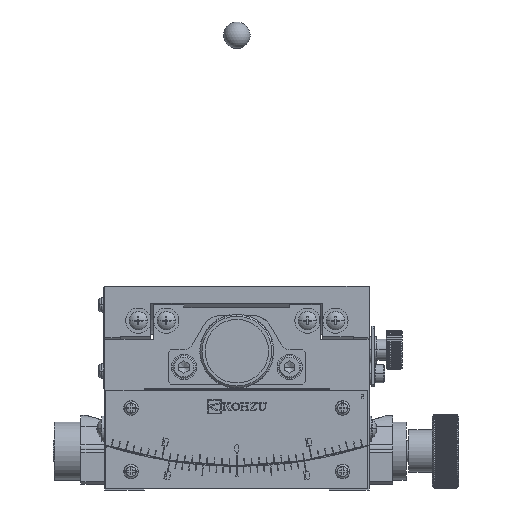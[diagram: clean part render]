
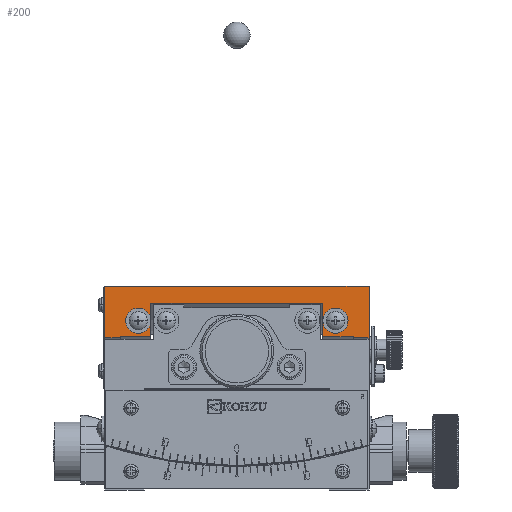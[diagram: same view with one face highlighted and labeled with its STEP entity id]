
A CAD part, front view. The second image highlights one B-rep face of the part: STEP entity #200.
In plain terms, the highlighted planar face has unit normal (0, -1, 0).
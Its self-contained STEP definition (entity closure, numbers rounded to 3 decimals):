
#200=ADVANCED_FACE('',(#4791,#4792,#4793),#4790,.T.);
#4790=PLANE('',#50765);
#4791=FACE_OUTER_BOUND('',#50766,.T.);
#4792=FACE_BOUND('',#50767,.T.);
#4793=FACE_BOUND('',#50768,.T.);
#50762=CARTESIAN_POINT('',(60.,-50.,78.935));
#50763=DIRECTION('',(0.,-1.,0.));
#50764=DIRECTION('',(-1.,0.,0.));
#50765=AXIS2_PLACEMENT_3D('',#50762,#50763,#50764);
#50766=EDGE_LOOP('',(#77972,#77973,#77974,#77975,#77976,#77977,#77978,#77979,#77980,#77981,#77982,#77983));
#50767=EDGE_LOOP('',(#77984,#77985));
#50768=EDGE_LOOP('',(#77986,#77987));
#77972=ORIENTED_EDGE('',*,*,#100789,.F.);
#77973=ORIENTED_EDGE('',*,*,#100792,.F.);
#77974=ORIENTED_EDGE('',*,*,#100793,.F.);
#77975=ORIENTED_EDGE('',*,*,#100794,.T.);
#77976=ORIENTED_EDGE('',*,*,#100795,.T.);
#77977=ORIENTED_EDGE('',*,*,#100796,.F.);
#77978=ORIENTED_EDGE('',*,*,#100797,.T.);
#77979=ORIENTED_EDGE('',*,*,#100798,.T.);
#77980=ORIENTED_EDGE('',*,*,#100799,.F.);
#77981=ORIENTED_EDGE('',*,*,#100800,.F.);
#77982=ORIENTED_EDGE('',*,*,#100801,.T.);
#77983=ORIENTED_EDGE('',*,*,#100802,.T.);
#77984=ORIENTED_EDGE('',*,*,#100803,.F.);
#77985=ORIENTED_EDGE('',*,*,#100804,.F.);
#77986=ORIENTED_EDGE('',*,*,#100805,.F.);
#77987=ORIENTED_EDGE('',*,*,#100806,.F.);
#100789=EDGE_CURVE('',#112210,#112218,#112219,.T.);
#100792=EDGE_CURVE('',#112238,#112210,#112239,.T.);
#100793=EDGE_CURVE('',#112245,#112238,#112246,.T.);
#100794=EDGE_CURVE('',#112245,#112252,#112253,.T.);
#100795=EDGE_CURVE('',#112252,#112259,#112260,.T.);
#100796=EDGE_CURVE('',#112266,#112259,#112267,.T.);
#100797=EDGE_CURVE('',#112266,#112273,#112274,.T.);
#100798=EDGE_CURVE('',#112273,#112280,#112281,.T.);
#100799=EDGE_CURVE('',#112287,#112280,#112288,.T.);
#100800=EDGE_CURVE('',#112294,#112287,#112295,.T.);
#100801=EDGE_CURVE('',#112294,#112301,#112302,.T.);
#100802=EDGE_CURVE('',#112301,#112218,#112308,.T.);
#100803=EDGE_CURVE('',#112314,#112315,#112316,.T.);
#100804=EDGE_CURVE('',#112315,#112314,#112322,.T.);
#100805=EDGE_CURVE('',#112328,#112329,#112330,.T.);
#100806=EDGE_CURVE('',#112329,#112328,#112336,.T.);
#112210=VERTEX_POINT('',#187891);
#112218=VERTEX_POINT('',#187897);
#112219=LINE('',#187898,#187899);
#112238=VERTEX_POINT('',#187909);
#112239=LINE('',#187910,#187911);
#112245=VERTEX_POINT('',#187913);
#112246=LINE('',#187914,#187915);
#112252=VERTEX_POINT('',#187917);
#112253=LINE('',#187918,#187919);
#112259=VERTEX_POINT('',#187921);
#112260=LINE('',#187922,#187923);
#112266=VERTEX_POINT('',#187925);
#112267=LINE('',#187926,#187927);
#112273=VERTEX_POINT('',#187929);
#112274=LINE('',#187930,#187931);
#112280=VERTEX_POINT('',#187933);
#112281=LINE('',#187934,#187935);
#112287=VERTEX_POINT('',#187937);
#112288=LINE('',#187938,#187939);
#112294=VERTEX_POINT('',#187941);
#112295=LINE('',#187942,#187943);
#112301=VERTEX_POINT('',#187945);
#112302=LINE('',#187946,#187947);
#112308=LINE('',#187949,#187950);
#112314=VERTEX_POINT('',#187952);
#112315=VERTEX_POINT('',#187953);
#112316=CIRCLE('',#187957,4.75);
#112322=CIRCLE('',#187961,4.75);
#112328=VERTEX_POINT('',#187962);
#112329=VERTEX_POINT('',#187963);
#112330=CIRCLE('',#187967,4.75);
#112336=CIRCLE('',#187971,4.75);
#187891=CARTESIAN_POINT('',(-44.,-50.,57.981));
#187897=CARTESIAN_POINT('',(-44.,-50.,57.654));
#187898=CARTESIAN_POINT('',(-44.,-50.,57.981));
#187899=VECTOR('',#187900,0.328);
#187900=DIRECTION('',(0.,0.,-1.));
#187909=CARTESIAN_POINT('',(-32.5,-50.,57.981));
#187910=CARTESIAN_POINT('',(-32.5,-50.,57.981));
#187911=VECTOR('',#187912,11.5);
#187912=DIRECTION('',(-1.,0.,0.));
#187913=CARTESIAN_POINT('',(-32.5,-50.,70.664));
#187914=CARTESIAN_POINT('',(-32.5,-50.,70.664));
#187915=VECTOR('',#187916,12.683);
#187916=DIRECTION('',(0.,0.,-1.));
#187917=CARTESIAN_POINT('',(32.5,-50.,70.664));
#187918=CARTESIAN_POINT('',(-32.5,-50.,70.664));
#187919=VECTOR('',#187920,65.);
#187920=DIRECTION('',(1.,0.,0.));
#187921=CARTESIAN_POINT('',(32.5,-50.,57.981));
#187922=CARTESIAN_POINT('',(32.5,-50.,70.664));
#187923=VECTOR('',#187924,12.683);
#187924=DIRECTION('',(0.,0.,-1.));
#187925=CARTESIAN_POINT('',(44.,-50.,57.981));
#187926=CARTESIAN_POINT('',(44.,-50.,57.981));
#187927=VECTOR('',#187928,11.5);
#187928=DIRECTION('',(-1.,0.,0.));
#187929=CARTESIAN_POINT('',(44.,-50.,57.654));
#187930=CARTESIAN_POINT('',(44.,-50.,57.981));
#187931=VECTOR('',#187932,0.328);
#187932=DIRECTION('',(0.,0.,-1.));
#187933=CARTESIAN_POINT('',(50.,-50.,57.654));
#187934=CARTESIAN_POINT('',(44.,-50.,57.654));
#187935=VECTOR('',#187936,6.);
#187936=DIRECTION('',(1.,0.,0.));
#187937=CARTESIAN_POINT('',(50.,-50.,77.));
#187938=CARTESIAN_POINT('',(50.,-50.,77.));
#187939=VECTOR('',#187940,19.346);
#187940=DIRECTION('',(0.,0.,-1.));
#187941=CARTESIAN_POINT('',(-50.,-50.,77.));
#187942=CARTESIAN_POINT('',(-50.,-50.,77.));
#187943=VECTOR('',#187944,100.);
#187944=DIRECTION('',(1.,0.,0.));
#187945=CARTESIAN_POINT('',(-50.,-50.,57.654));
#187946=CARTESIAN_POINT('',(-50.,-50.,77.));
#187947=VECTOR('',#187948,19.346);
#187948=DIRECTION('',(0.,0.,-1.));
#187949=CARTESIAN_POINT('',(-50.,-50.,57.654));
#187950=VECTOR('',#187951,6.);
#187951=DIRECTION('',(1.,0.,0.));
#187952=CARTESIAN_POINT('',(32.55,-50.,64.01));
#187953=CARTESIAN_POINT('',(42.05,-50.,64.01));
#187954=CARTESIAN_POINT('',(37.3,-50.,64.01));
#187955=DIRECTION('',(0.,-1.,0.));
#187956=DIRECTION('',(1.,0.,0.));
#187957=AXIS2_PLACEMENT_3D('',#187954,#187955,#187956);
#187958=CARTESIAN_POINT('',(37.3,-50.,64.01));
#187959=DIRECTION('',(0.,-1.,0.));
#187960=DIRECTION('',(1.,0.,0.));
#187961=AXIS2_PLACEMENT_3D('',#187958,#187959,#187960);
#187962=CARTESIAN_POINT('',(-42.05,-50.,64.01));
#187963=CARTESIAN_POINT('',(-32.55,-50.,64.01));
#187964=CARTESIAN_POINT('',(-37.3,-50.,64.01));
#187965=DIRECTION('',(0.,-1.,0.));
#187966=DIRECTION('',(1.,0.,0.));
#187967=AXIS2_PLACEMENT_3D('',#187964,#187965,#187966);
#187968=CARTESIAN_POINT('',(-37.3,-50.,64.01));
#187969=DIRECTION('',(0.,-1.,0.));
#187970=DIRECTION('',(1.,0.,0.));
#187971=AXIS2_PLACEMENT_3D('',#187968,#187969,#187970);
